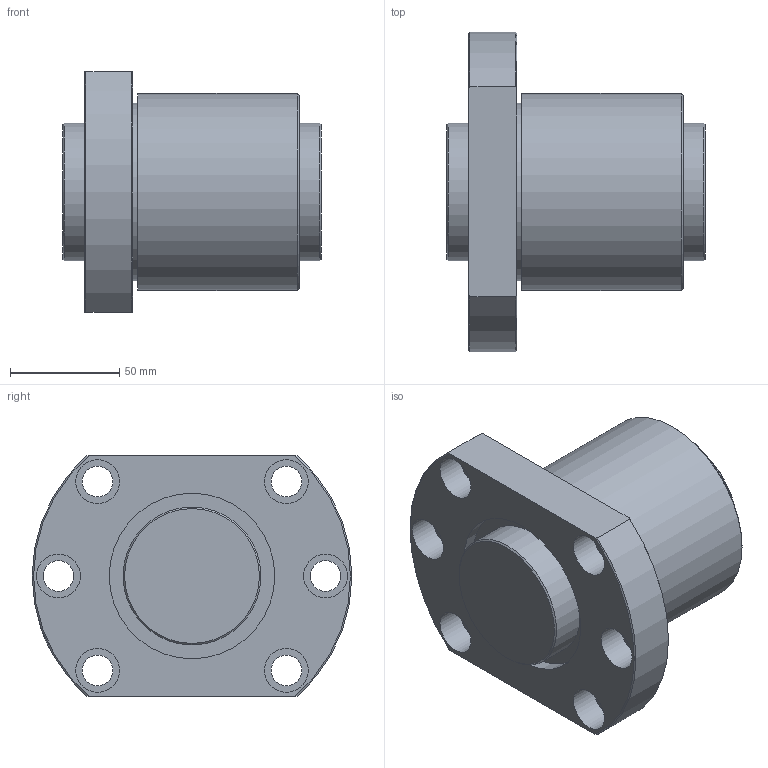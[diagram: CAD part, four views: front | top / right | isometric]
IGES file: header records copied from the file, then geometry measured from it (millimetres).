
Start section: Data from Parasolid IGES Translator 26.0.171, Copyright(c) 2006 Siemens PLM Software. All Rights Reserved.
Global section: file name: DK6312-3RRG1+118LC0_000.igs; native system: By Siemens PLM Incorporated; preprocessor: XPlus GENERIC/IGES 26.0.171; author: Noname; organization: Noname; date: 20250113.093217; units: millimetre
Bounding box: 118 x 146 x 110 mm (x, y, z)
Surface area: 111457.7 mm2 (no closed solid volume)
Topology: 0 solids, 0 shells, 46 faces, 200 edges, 178 vertices
Faces by surface type: revolution 30, extrusion 16
